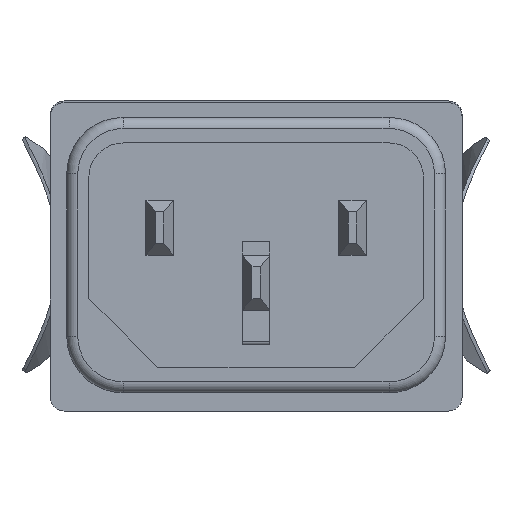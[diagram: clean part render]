
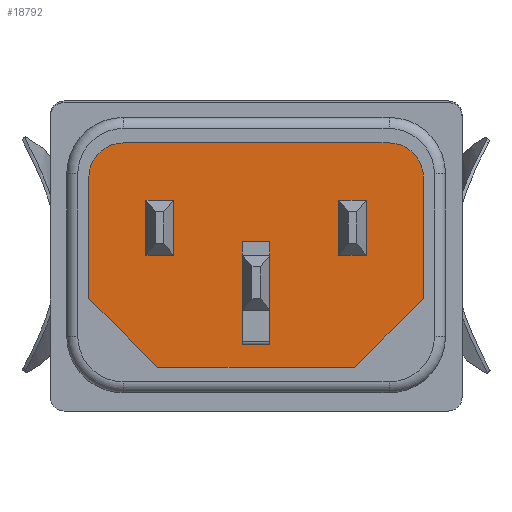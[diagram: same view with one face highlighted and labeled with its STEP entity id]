
A CAD part, front view. The second image highlights one B-rep face of the part: STEP entity #18792.
In plain terms, the highlighted planar face has unit normal (0, -1, 0).
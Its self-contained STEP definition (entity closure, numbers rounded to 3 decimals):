
#15619=CARTESIAN_POINT('',(-6.0,12.85,4.));
#15620=VERTEX_POINT('',#15619);
#15621=CARTESIAN_POINT('',(-6.0,12.85,0.));
#15622=VERTEX_POINT('',#15621);
#15623=CARTESIAN_POINT('',(-6.0,12.85,4.));
#15624=DIRECTION('',(0.0,0.0,-1.0));
#15625=VECTOR('',#15624,4.);
#15626=LINE('',#15623,#15625);
#15627=EDGE_CURVE('',#15620,#15622,#15626,.T.);
#15769=CARTESIAN_POINT('',(-8.,12.85,0.));
#15770=VERTEX_POINT('',#15769);
#15771=CARTESIAN_POINT('',(-8.,12.85,4.));
#15772=VERTEX_POINT('',#15771);
#15773=CARTESIAN_POINT('',(-8.,12.85,0.));
#15774=DIRECTION('',(0.0,0.0,1.0));
#15775=VECTOR('',#15774,4.);
#15776=LINE('',#15773,#15775);
#15777=EDGE_CURVE('',#15770,#15772,#15776,.T.);
#15803=CARTESIAN_POINT('',(-8.0,12.85,4.));
#15804=DIRECTION('',(1.0,0.0,0.0));
#15805=VECTOR('',#15804,2.0);
#15806=LINE('',#15803,#15805);
#15807=EDGE_CURVE('',#15772,#15620,#15806,.T.);
#15835=CARTESIAN_POINT('',(-6.0,12.85,0.));
#15836=DIRECTION('',(-1.0,0.0,0.0));
#15837=VECTOR('',#15836,2.);
#15838=LINE('',#15835,#15837);
#15839=EDGE_CURVE('',#15622,#15770,#15838,.T.);
#15958=CARTESIAN_POINT('',(1.,12.85,-6.051));
#15959=VERTEX_POINT('',#15958);
#15960=CARTESIAN_POINT('',(-1.,12.85,-6.051));
#15961=VERTEX_POINT('',#15960);
#15962=CARTESIAN_POINT('',(1.,12.85,-6.051));
#15963=DIRECTION('',(-1.0,0.0,0.0));
#15964=VECTOR('',#15963,2.0);
#15965=LINE('',#15962,#15964);
#15966=EDGE_CURVE('',#15959,#15961,#15965,.T.);
#16078=CARTESIAN_POINT('',(1.,12.85,1.));
#16079=VERTEX_POINT('',#16078);
#16080=CARTESIAN_POINT('',(1.,12.85,1.));
#16081=DIRECTION('',(0.0,0.0,-1.0));
#16082=VECTOR('',#16081,7.051);
#16083=LINE('',#16080,#16082);
#16084=EDGE_CURVE('',#16079,#15959,#16083,.T.);
#16260=CARTESIAN_POINT('',(-1.,12.85,1.));
#16261=VERTEX_POINT('',#16260);
#16262=CARTESIAN_POINT('',(-1.,12.85,-6.051));
#16263=DIRECTION('',(0.0,0.0,1.0));
#16264=VECTOR('',#16263,7.051);
#16265=LINE('',#16262,#16264);
#16266=EDGE_CURVE('',#15961,#16261,#16265,.T.);
#16459=CARTESIAN_POINT('',(-1.,12.85,1.));
#16460=DIRECTION('',(1.0,0.0,0.0));
#16461=VECTOR('',#16460,2.0);
#16462=LINE('',#16459,#16461);
#16463=EDGE_CURVE('',#16261,#16079,#16462,.T.);
#16765=CARTESIAN_POINT('',(8.,12.85,4.));
#16766=VERTEX_POINT('',#16765);
#16767=CARTESIAN_POINT('',(8.0,12.85,0.));
#16768=VERTEX_POINT('',#16767);
#16769=CARTESIAN_POINT('',(8.,12.85,4.));
#16770=DIRECTION('',(0.0,0.0,-1.0));
#16771=VECTOR('',#16770,4.);
#16772=LINE('',#16769,#16771);
#16773=EDGE_CURVE('',#16766,#16768,#16772,.T.);
#16915=CARTESIAN_POINT('',(6.,12.85,0.));
#16916=VERTEX_POINT('',#16915);
#16917=CARTESIAN_POINT('',(6.,12.85,4.));
#16918=VERTEX_POINT('',#16917);
#16919=CARTESIAN_POINT('',(6.0,12.85,0.));
#16920=DIRECTION('',(0.0,0.0,1.0));
#16921=VECTOR('',#16920,4.);
#16922=LINE('',#16919,#16921);
#16923=EDGE_CURVE('',#16916,#16918,#16922,.T.);
#16949=CARTESIAN_POINT('',(6.,12.85,4.));
#16950=DIRECTION('',(1.0,0.0,0.0));
#16951=VECTOR('',#16950,2.0);
#16952=LINE('',#16949,#16951);
#16953=EDGE_CURVE('',#16918,#16766,#16952,.T.);
#16981=CARTESIAN_POINT('',(8.0,12.85,0.));
#16982=DIRECTION('',(-1.0,0.0,0.0));
#16983=VECTOR('',#16982,2.);
#16984=LINE('',#16981,#16983);
#16985=EDGE_CURVE('',#16768,#16916,#16984,.T.);
#18570=CARTESIAN_POINT('',(12.15,12.85,5.65));
#18571=VERTEX_POINT('',#18570);
#18572=CARTESIAN_POINT('',(9.65,12.85,8.15));
#18573=VERTEX_POINT('',#18572);
#18574=CARTESIAN_POINT('',(9.65,12.85,5.65));
#18575=DIRECTION('',(0.0,-1.0,0.0));
#18576=DIRECTION('',(1.0,0.0,0.0));
#18577=AXIS2_PLACEMENT_3D('',#18574,#18575,#18576);
#18578=CIRCLE('',#18577,2.5);
#18579=EDGE_CURVE('',#18571,#18573,#18578,.T.);
#18602=CARTESIAN_POINT('',(-9.65,12.85,8.15));
#18603=VERTEX_POINT('',#18602);
#18604=CARTESIAN_POINT('',(9.65,12.85,8.15));
#18605=DIRECTION('',(-1.0,0.0,0.0));
#18606=VECTOR('',#18605,19.3);
#18607=LINE('',#18604,#18606);
#18608=EDGE_CURVE('',#18573,#18603,#18607,.T.);
#18626=CARTESIAN_POINT('',(-12.15,12.85,5.65));
#18627=VERTEX_POINT('',#18626);
#18628=CARTESIAN_POINT('',(-9.65,12.85,5.65));
#18629=DIRECTION('',(0.0,-1.0,0.0));
#18630=DIRECTION('',(0.0,0.0,1.0));
#18631=AXIS2_PLACEMENT_3D('',#18628,#18629,#18630);
#18632=CIRCLE('',#18631,2.5);
#18633=EDGE_CURVE('',#18603,#18627,#18632,.T.);
#18651=CARTESIAN_POINT('',(-12.15,12.85,-3.15));
#18652=VERTEX_POINT('',#18651);
#18653=CARTESIAN_POINT('',(-12.15,12.85,5.65));
#18654=DIRECTION('',(0.0,0.0,-1.0));
#18655=VECTOR('',#18654,8.8);
#18656=LINE('',#18653,#18655);
#18657=EDGE_CURVE('',#18627,#18652,#18656,.T.);
#18675=CARTESIAN_POINT('',(-7.15,12.85,-8.15));
#18676=VERTEX_POINT('',#18675);
#18677=CARTESIAN_POINT('',(-12.15,12.85,-3.15));
#18678=DIRECTION('',(0.707,0.0,-0.707));
#18679=VECTOR('',#18678,7.071);
#18680=LINE('',#18677,#18679);
#18681=EDGE_CURVE('',#18652,#18676,#18680,.T.);
#18699=CARTESIAN_POINT('',(7.15,12.85,-8.15));
#18700=VERTEX_POINT('',#18699);
#18701=CARTESIAN_POINT('',(-7.15,12.85,-8.15));
#18702=DIRECTION('',(1.0,0.0,0.0));
#18703=VECTOR('',#18702,14.3);
#18704=LINE('',#18701,#18703);
#18705=EDGE_CURVE('',#18676,#18700,#18704,.T.);
#18723=CARTESIAN_POINT('',(12.15,12.85,-3.15));
#18724=VERTEX_POINT('',#18723);
#18725=CARTESIAN_POINT('',(7.15,12.85,-8.15));
#18726=DIRECTION('',(0.707,0.0,0.707));
#18727=VECTOR('',#18726,7.071);
#18728=LINE('',#18725,#18727);
#18729=EDGE_CURVE('',#18700,#18724,#18728,.T.);
#18747=CARTESIAN_POINT('',(12.15,12.85,-3.15));
#18748=DIRECTION('',(0.0,0.0,1.0));
#18749=VECTOR('',#18748,8.8);
#18750=LINE('',#18747,#18749);
#18751=EDGE_CURVE('',#18724,#18571,#18750,.T.);
#18759=CARTESIAN_POINT('',(0.,12.85,0.539));
#18760=DIRECTION('',(0.0,1.0,0.0));
#18761=DIRECTION('',(0.0,0.0,1.0));
#18762=AXIS2_PLACEMENT_3D('',#18759,#18760,#18761);
#18763=PLANE('',#18762);
#18764=ORIENTED_EDGE('',*,*,#18579,.T.);
#18765=ORIENTED_EDGE('',*,*,#18608,.T.);
#18766=ORIENTED_EDGE('',*,*,#18633,.T.);
#18767=ORIENTED_EDGE('',*,*,#18657,.T.);
#18768=ORIENTED_EDGE('',*,*,#18681,.T.);
#18769=ORIENTED_EDGE('',*,*,#18705,.T.);
#18770=ORIENTED_EDGE('',*,*,#18729,.T.);
#18771=ORIENTED_EDGE('',*,*,#18751,.T.);
#18772=EDGE_LOOP('',(#18764,#18765,#18766,#18767,#18768,#18769,#18770,#18771));
#18773=FACE_OUTER_BOUND('',#18772,.T.);
#18774=ORIENTED_EDGE('',*,*,#15777,.T.);
#18775=ORIENTED_EDGE('',*,*,#15807,.T.);
#18776=ORIENTED_EDGE('',*,*,#15627,.T.);
#18777=ORIENTED_EDGE('',*,*,#15839,.T.);
#18778=EDGE_LOOP('',(#18774,#18775,#18776,#18777));
#18779=FACE_BOUND('',#18778,.T.);
#18780=ORIENTED_EDGE('',*,*,#16084,.T.);
#18781=ORIENTED_EDGE('',*,*,#15966,.T.);
#18782=ORIENTED_EDGE('',*,*,#16266,.T.);
#18783=ORIENTED_EDGE('',*,*,#16463,.T.);
#18784=EDGE_LOOP('',(#18780,#18781,#18782,#18783));
#18785=FACE_BOUND('',#18784,.T.);
#18786=ORIENTED_EDGE('',*,*,#16923,.T.);
#18787=ORIENTED_EDGE('',*,*,#16953,.T.);
#18788=ORIENTED_EDGE('',*,*,#16773,.T.);
#18789=ORIENTED_EDGE('',*,*,#16985,.T.);
#18790=EDGE_LOOP('',(#18786,#18787,#18788,#18789));
#18791=FACE_BOUND('',#18790,.T.);
#18792=ADVANCED_FACE('',(#18773,#18779,#18785,#18791),#18763,.F.);
